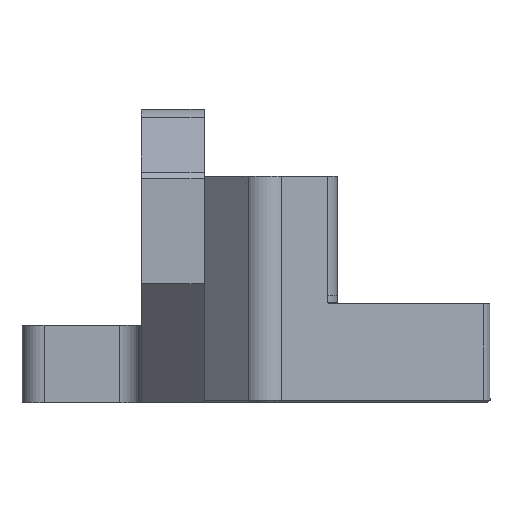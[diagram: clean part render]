
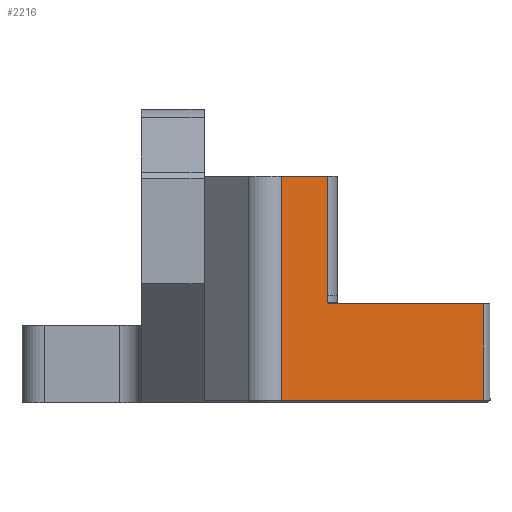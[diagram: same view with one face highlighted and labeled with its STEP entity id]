
A CAD part, left-side view. The second image highlights one B-rep face of the part: STEP entity #2216.
In plain terms, the highlighted planar face has unit normal (-0.707, -0.707, 0).
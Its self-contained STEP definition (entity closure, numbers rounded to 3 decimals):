
#271=FACE_OUTER_BOUND('',#405,.T.);
#405=EDGE_LOOP('',(#1968,#1969,#1970,#1971,#1972,#1973,#1974,#1975,#1976));
#616=LINE('',#4435,#821);
#618=LINE('',#4444,#823);
#619=LINE('',#4447,#824);
#622=LINE('',#4454,#827);
#623=LINE('',#4457,#828);
#625=LINE('',#4461,#830);
#638=LINE('',#4540,#843);
#640=LINE('',#4546,#845);
#641=LINE('',#4547,#846);
#821=VECTOR('',#2874,10.);
#823=VECTOR('',#2884,10.);
#824=VECTOR('',#2887,10.);
#827=VECTOR('',#2894,10.);
#828=VECTOR('',#2899,10.);
#830=VECTOR('',#2903,10.);
#843=VECTOR('',#2942,10.);
#845=VECTOR('',#2948,10.);
#846=VECTOR('',#2949,10.);
#1040=VERTEX_POINT('',#4197);
#1049=VERTEX_POINT('',#4431);
#1051=VERTEX_POINT('',#4434);
#1054=VERTEX_POINT('',#4442);
#1055=VERTEX_POINT('',#4446);
#1057=VERTEX_POINT('',#4453);
#1058=VERTEX_POINT('',#4459);
#1066=VERTEX_POINT('',#4539);
#1068=VERTEX_POINT('',#4545);
#1346=EDGE_CURVE('',#1049,#1051,#616,.T.);
#1351=EDGE_CURVE('',#1054,#1051,#618,.T.);
#1352=EDGE_CURVE('',#1055,#1054,#619,.T.);
#1356=EDGE_CURVE('',#1057,#1055,#622,.F.);
#1358=EDGE_CURVE('',#1057,#1040,#623,.T.);
#1360=EDGE_CURVE('',#1040,#1058,#625,.T.);
#1377=EDGE_CURVE('',#1066,#1049,#638,.T.);
#1380=EDGE_CURVE('',#1068,#1066,#640,.T.);
#1381=EDGE_CURVE('',#1058,#1068,#641,.T.);
#1968=ORIENTED_EDGE('',*,*,#1360,.F.);
#1969=ORIENTED_EDGE('',*,*,#1358,.F.);
#1970=ORIENTED_EDGE('',*,*,#1356,.T.);
#1971=ORIENTED_EDGE('',*,*,#1352,.T.);
#1972=ORIENTED_EDGE('',*,*,#1351,.T.);
#1973=ORIENTED_EDGE('',*,*,#1346,.F.);
#1974=ORIENTED_EDGE('',*,*,#1377,.F.);
#1975=ORIENTED_EDGE('',*,*,#1380,.F.);
#1976=ORIENTED_EDGE('',*,*,#1381,.F.);
#2104=PLANE('',#2412);
#2216=ADVANCED_FACE('',(#271),#2104,.T.);
#2412=AXIS2_PLACEMENT_3D('',#4544,#2946,#2947);
#2874=DIRECTION('',(0.,0.,-1.));
#2884=DIRECTION('',(-0.707,0.707,0.));
#2887=DIRECTION('',(0.,0.,1.));
#2894=DIRECTION('',(0.707,-0.707,0.));
#2899=DIRECTION('',(0.,0.,-1.));
#2903=DIRECTION('',(-0.707,0.707,0.));
#2942=DIRECTION('',(0.,0.,-1.));
#2946=DIRECTION('center_axis',(-0.707,-0.707,0.));
#2947=DIRECTION('ref_axis',(0.707,-0.707,0.));
#2948=DIRECTION('',(0.707,-0.707,0.));
#2949=DIRECTION('',(0.,0.,1.));
#4197=CARTESIAN_POINT('',(22.898,26.174,-28.97));
#4431=CARTESIAN_POINT('',(8.775,40.298,-19.42));
#4434=CARTESIAN_POINT('',(8.775,40.298,-20.07));
#4435=CARTESIAN_POINT('',(8.775,40.298,-19.42));
#4442=CARTESIAN_POINT('',(8.88,40.192,-20.07));
#4444=CARTESIAN_POINT('',(6.651,42.421,-20.07));
#4446=CARTESIAN_POINT('',(8.88,40.192,-20.17));
#4447=CARTESIAN_POINT('',(8.88,40.192,-19.27));
#4453=CARTESIAN_POINT('',(22.898,26.174,-20.17));
#4454=CARTESIAN_POINT('',(9.553,39.519,-20.17));
#4457=CARTESIAN_POINT('',(22.898,26.174,-27.223));
#4459=CARTESIAN_POINT('',(4.55,44.522,-28.97));
#4461=CARTESIAN_POINT('',(10.867,38.206,-28.97));
#4539=CARTESIAN_POINT('',(8.775,40.298,-8.582));
#4540=CARTESIAN_POINT('',(8.775,40.298,-23.598));
#4544=CARTESIAN_POINT('Origin',(4.55,44.522,-28.87));
#4545=CARTESIAN_POINT('',(4.55,44.522,-8.582));
#4546=CARTESIAN_POINT('',(10.867,38.206,-8.582));
#4547=CARTESIAN_POINT('',(4.55,44.522,-17.82));
